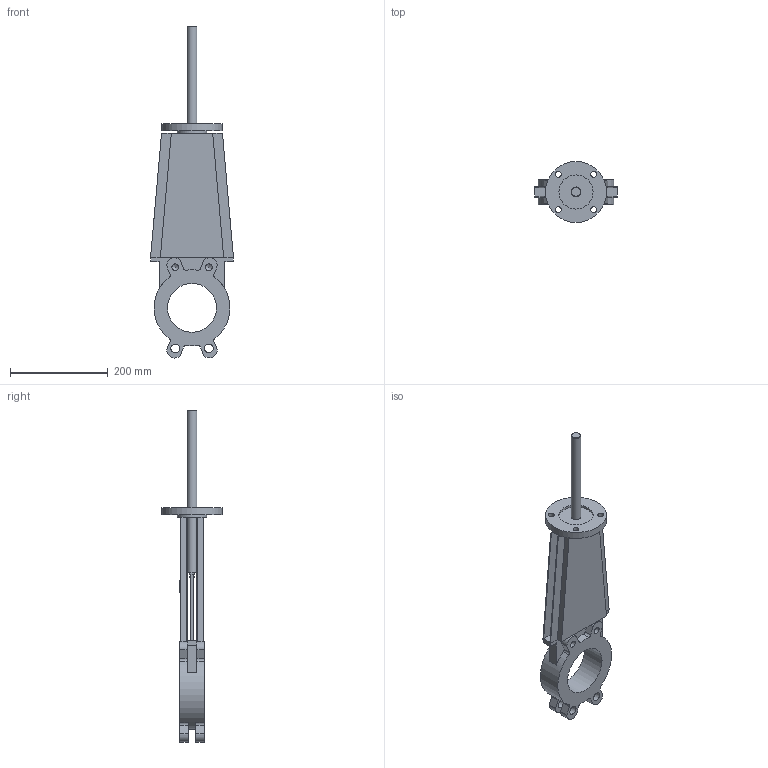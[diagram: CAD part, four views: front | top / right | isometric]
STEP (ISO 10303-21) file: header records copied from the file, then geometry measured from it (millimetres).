
FILE_DESCRIPTION(('STEP AP203'), '1');
FILE_NAME('K21GVA_DN100', '', ('UNSPECIFIED'), ('UNSPECIFIED'), 'ASCON STEP Converter 1.6', 'ASCON Math Kernel', '');
FILE_SCHEMA(('CONFIG_CONTROL_DESIGN'));
Length unit declared in the file: millimetre
Bounding box: 170 x 125 x 680.83 mm (x, y, z)
Volume: 1299832.5 mm3; surface area: 358780.7 mm2
Topology: 1 solids, 1 shells, 155 faces, 434 edges, 281 vertices
Faces by surface type: plane 98, cylinder 52, cone 5
Full cylindrical faces by diameter (mm): 12 x4, 13.835 x4, 18 x4, 20 x2, 60 x1, 70 x1, 100 x1, 125 x1
Entity records: 6158 total; most frequent: DIRECTION 848, CARTESIAN_POINT 840, ORIENTED_EDGE 814, EDGE_CURVE 407, AXIS2_PLACEMENT_3D 285, LINE 278, VECTOR 278, VERTEX_POINT 277
